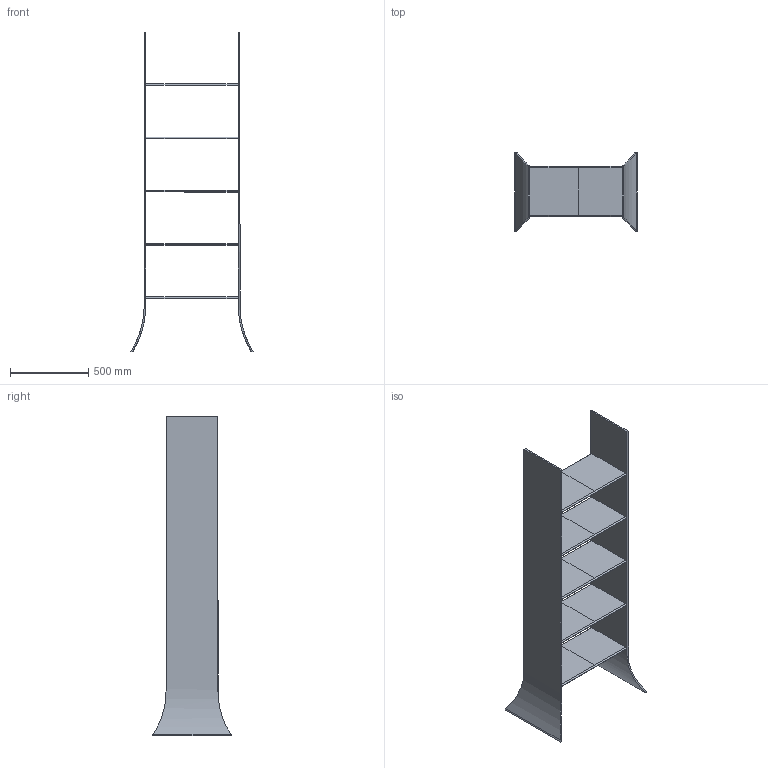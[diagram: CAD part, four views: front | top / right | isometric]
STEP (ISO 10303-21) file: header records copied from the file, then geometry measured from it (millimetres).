
FILE_DESCRIPTION(/* description */ (''),/* implementation_level */ '2;1');
FILE_NAME(/* name */ '06-1 - Babele 78x50',/* time_stamp */ '2010-11-04T15:55:03+01:00',/* author */ (''),/* organization */ (''),/* preprocessor_version */ 'ST-DEVELOPER v10',/* originating_system */ '',/* authorisation */ '');
FILE_SCHEMA (('CONFIG_CONTROL_DESIGN'));
Length unit declared in the file: centimetre
Products named in the file (1): 1
Bounding box: 779.93 x 500 x 2040.01 mm (x, y, z)
Volume: 22831061.3 mm3; surface area: 4836045.1 mm2
Topology: 7 solids, 7 shells, 84 faces, 180 edges, 110 vertices
Faces by surface type: plane 72, bspline 12
Entity records: 4694 total; most frequent: CARTESIAN_POINT 3280, ORIENTED_EDGE 360, EDGE_CURVE 180, B_SPLINE_CURVE_WITH_KNOTS 180, VERTEX_POINT 110, ADVANCED_FACE 84, FACE_OUTER_BOUND 84, EDGE_LOOP 84
